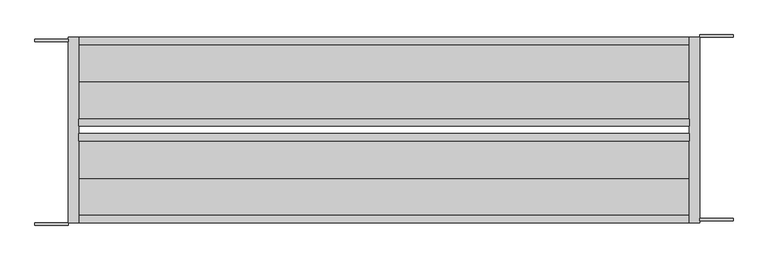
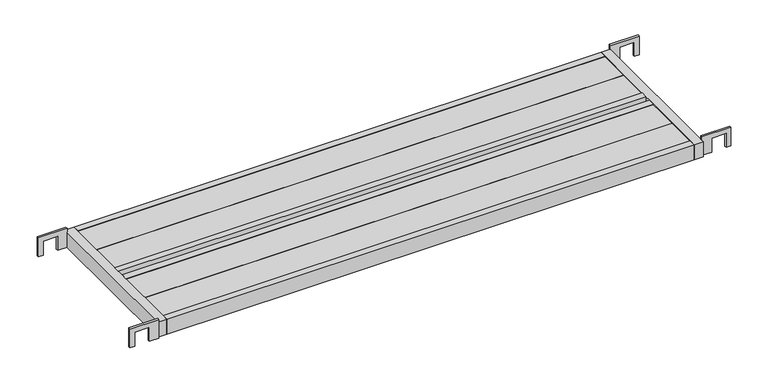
"""IFC4 building model written with IfcOpenShell, lengths in millimetres: proxy geometry, AKK布板HF-518_軽 : 鋼製布板 HF-518_軽."""

from ifc_helpers import new_model, si_unit, frame, origin, place, context, project, spatial, polyline, outline, extrude, source, transform, mapped, element, save


def generic_models_df36e8bf(model_context):
    return source(origin(), model_context, "Body", "SweptSolid", [
        extrude(outline(polyline([(37.5, 1762.5), (-24.1, 1762.5), (-24.1, 1792.5), (22.0, 1792.5), (22.0, 1837.5), (-24.1, 1837.5), (-24.1, 1852.5), (37.5, 1852.5), (37.5, 1762.5)])), frame((0.0, 12.0, 0.0), z_axis=(0.0, 1.0, 0.0), x_axis=(0.0, 0.0, 1.0)), (0.0, 0.0, 1.0), 6.0),
        extrude(outline(polyline([(37.5, 1762.5), (-24.1, 1762.5), (-24.1, 1792.5), (22.0, 1792.5), (22.0, 1837.5), (-24.1, 1837.5), (-24.1, 1852.5), (37.5, 1852.5), (37.5, 1762.5)])), frame((0.0, 506.0, 0.0), z_axis=(0.0, 1.0, 0.0), x_axis=(0.0, 0.0, 1.0)), (0.0, 0.0, 1.0), 6.0),
        extrude(outline(polyline([(37.5, -23.0), (-24.1, -23.0), (-24.1, -8.0), (22.0, -8.0), (22.0, 37.0), (-24.1, 37.0), (-24.1, 66.5), (37.5, 66.5), (37.5, -23.0)])), frame((0.0, 0.0, 0.0), z_axis=(0.0, 1.0, 0.0), x_axis=(0.0, 0.0, 1.0)), (0.0, 0.0, 1.0), 6.0),
        extrude(outline(polyline([(37.5, -23.0), (-24.1, -23.0), (-24.1, -8.0), (22.0, -8.0), (22.0, 37.0), (-24.1, 37.0), (-24.1, 66.5), (37.5, 66.5), (37.5, -23.0)])), frame((0.0, 494.0, 0.0), z_axis=(0.0, 1.0, 0.0), x_axis=(0.0, 0.0, 1.0)), (0.0, 0.0, 1.0), 6.0),
        extrude(outline(polyline([(1734.5, 486.0), (1734.5, 386.0), (94.5, 386.0), (94.5, 486.0), (1734.5, 486.0)])), frame((0.0, 0.0, 17.5), z_axis=(0.0, 0.0, 1.0), x_axis=(1.0, 0.0, 0.0)), (0.0, 0.0, 1.0), 5.0),
        extrude(outline(polyline([(1734.5, 386.0), (1734.5, 286.0), (94.5, 286.0), (94.5, 386.0), (1734.5, 386.0)])), frame((0.0, 0.0, 17.5), z_axis=(0.0, 0.0, 1.0), x_axis=(1.0, 0.0, 0.0)), (0.0, 0.0, 1.0), 5.0),
        extrude(outline(polyline([(1734.5, 226.0), (1734.5, 126.0), (94.5, 126.0), (94.5, 226.0), (1734.5, 226.0)])), frame((0.0, 0.0, 17.5), z_axis=(0.0, 0.0, 1.0), x_axis=(1.0, 0.0, 0.0)), (0.0, 0.0, 1.0), 5.0),
        extrude(outline(polyline([(1734.5, 126.0), (1734.5, 26.0), (94.5, 26.0), (94.5, 126.0), (1734.5, 126.0)])), frame((0.0, 0.0, 17.5), z_axis=(0.0, 0.0, 1.0), x_axis=(1.0, 0.0, 0.0)), (0.0, 0.0, 1.0), 5.0),
        extrude(outline(polyline([(1734.5, 286.0), (1734.5, 266.0), (94.5, 266.0), (94.5, 286.0), (1734.5, 286.0)])), frame((0.0, 0.0, -25.0), z_axis=(0.0, 0.0, 1.0), x_axis=(1.0, 0.0, 0.0)), (0.0, 0.0, 1.0), 50.0),
        extrude(outline(polyline([(1734.5, 246.0), (1734.5, 226.0), (94.5, 226.0), (94.5, 246.0), (1734.5, 246.0)])), frame((0.0, 0.0, -25.0), z_axis=(0.0, 0.0, 1.0), x_axis=(1.0, 0.0, 0.0)), (0.0, 0.0, 1.0), 50.0),
        extrude(outline(polyline([(1734.5, 6.0), (1734.5, 506.0), (1762.5, 506.0), (1762.5, 6.0), (1734.5, 6.0)])), frame((0.0, 0.0, -25.0), z_axis=(0.0, 0.0, 1.0), x_axis=(1.0, 0.0, 0.0)), (0.0, 0.0, 1.0), 50.0),
        extrude(outline(polyline([(66.5, 6.0), (66.5, 506.0), (94.5, 506.0), (94.5, 6.0), (66.5, 6.0)])), frame((0.0, 0.0, -25.0), z_axis=(0.0, 0.0, 1.0), x_axis=(1.0, 0.0, 0.0)), (0.0, 0.0, 1.0), 50.0),
        extrude(outline(polyline([(1734.5, 506.0), (1734.5, 486.0), (94.5, 486.0), (94.5, 506.0), (1734.5, 506.0)])), frame((0.0, 0.0, -25.0), z_axis=(0.0, 0.0, 1.0), x_axis=(1.0, 0.0, 0.0)), (0.0, 0.0, 1.0), 50.0),
        extrude(outline(polyline([(1734.5, 26.0), (1734.5, 6.0), (94.5, 6.0), (94.5, 26.0), (1734.5, 26.0)])), frame((0.0, 0.0, -25.0), z_axis=(0.0, 0.0, 1.0), x_axis=(1.0, 0.0, 0.0)), (0.0, 0.0, 1.0), 50.0),
    ])


if __name__ == "__main__":
    model = new_model("IFC4")
    model_context = context("Model", 3, world=origin())
    ifc_project = project(units=[si_unit("LENGTHUNIT", "METRE", prefix="MILLI")], contexts=[model_context])
    site = spatial("IfcSite", under=ifc_project)
    building = spatial("IfcBuilding", under=site)
    placement = place(None, origin())
    generic_models_shape = generic_models_df36e8bf(model_context)
    element("IfcBuildingElementProxy", 1, Name="AKK布板HF-518_軽 : 鋼製布板 HF-518_軽", ObjectType="AKK布板HF-518_軽 : 鋼製布板 HF-518_軽", at=placement, inside=building, context=model_context, shape_type="MappedRepresentation", body=[
        mapped(generic_models_shape, transform((0.0, 0.0, 0.0), x_axis=(1.0, 0.0, 0.0), y_axis=(0.0, 1.0, 0.0), z_axis=(0.0, 0.0, 1.0))),
    ])
    save(model, "model.ifc")
